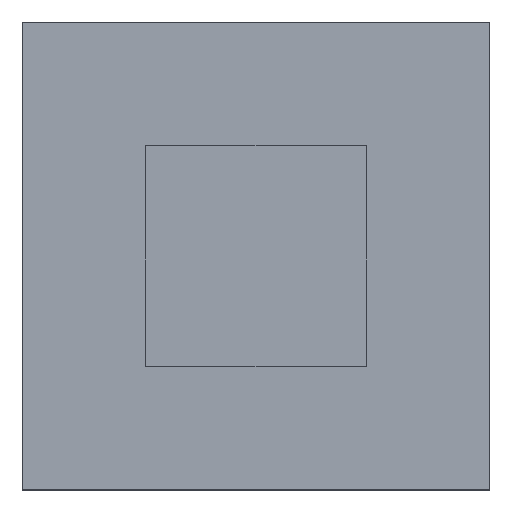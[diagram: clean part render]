
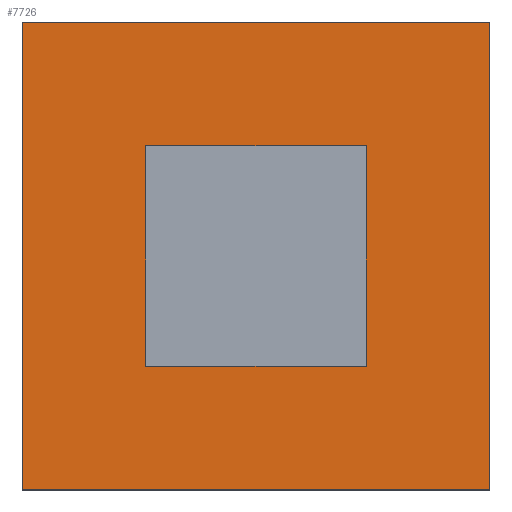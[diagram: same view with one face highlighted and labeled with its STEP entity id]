
A CAD part, top view. The second image highlights one B-rep face of the part: STEP entity #7726.
In plain terms, the highlighted planar face has unit normal (0, 0, 1).
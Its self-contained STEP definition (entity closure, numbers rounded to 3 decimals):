
#503 = VERTEX_POINT ( 'NONE', #2629 ) ;
#594 = CARTESIAN_POINT ( 'NONE',  ( 16.5, 16.5, 1.5 ) ) ;
#877 = CARTESIAN_POINT ( 'NONE',  ( -35., 35., 1.5 ) ) ;
#1451 = FACE_OUTER_BOUND ( 'NONE', #2004, .T. ) ;
#1660 = VECTOR ( 'NONE', #10541, 1000. ) ;
#1793 = CARTESIAN_POINT ( 'NONE',  ( 35., 35., 1.5 ) ) ;
#1853 = ORIENTED_EDGE ( 'NONE', *, *, #8803, .T. ) ;
#1870 = CARTESIAN_POINT ( 'NONE',  ( -16.5, -16.5, 1.5 ) ) ;
#2004 = EDGE_LOOP ( 'NONE', ( #6727, #1853, #2871, #6154 ) ) ;
#2267 = VECTOR ( 'NONE', #5680, 1000. ) ;
#2496 = EDGE_CURVE ( 'NONE', #5563, #10573, #5337, .T. ) ;
#2629 = CARTESIAN_POINT ( 'NONE',  ( 35., 35., 1.5 ) ) ;
#2649 = EDGE_CURVE ( 'NONE', #10573, #9497, #3762, .T. ) ;
#2871 = ORIENTED_EDGE ( 'NONE', *, *, #7599, .T. ) ;
#2905 = VECTOR ( 'NONE', #10773, 1000. ) ;
#2908 = CARTESIAN_POINT ( 'NONE',  ( -35., 35., 1.5 ) ) ;
#3012 = ORIENTED_EDGE ( 'NONE', *, *, #9939, .F. ) ;
#3025 = CARTESIAN_POINT ( 'NONE',  ( 0., 0., 1.5 ) ) ;
#3071 = EDGE_CURVE ( 'NONE', #6294, #9923, #6422, .T. ) ;
#3208 = CARTESIAN_POINT ( 'NONE',  ( 16.5, 16.5, 1.5 ) ) ;
#3298 = VERTEX_POINT ( 'NONE', #4496 ) ;
#3324 = VERTEX_POINT ( 'NONE', #1870 ) ;
#3502 = AXIS2_PLACEMENT_3D ( 'NONE', #3025, #9913, #10751 ) ;
#3762 = LINE ( 'NONE', #7347, #2905 ) ;
#4042 = CARTESIAN_POINT ( 'NONE',  ( -16.5, -16.5, 1.5 ) ) ;
#4153 = CARTESIAN_POINT ( 'NONE',  ( 16.5, -16.5, 1.5 ) ) ;
#4349 = LINE ( 'NONE', #10189, #10850 ) ;
#4496 = CARTESIAN_POINT ( 'NONE',  ( -16.5, 16.5, 1.5 ) ) ;
#4742 = CARTESIAN_POINT ( 'NONE',  ( 35., -35., 1.5 ) ) ;
#4944 = LINE ( 'NONE', #4042, #9079 ) ;
#5089 = ORIENTED_EDGE ( 'NONE', *, *, #9181, .F. ) ;
#5337 = LINE ( 'NONE', #6176, #1660 ) ;
#5374 = DIRECTION ( 'NONE',  ( -1., 0., 0. ) ) ;
#5563 = VERTEX_POINT ( 'NONE', #877 ) ;
#5680 = DIRECTION ( 'NONE',  ( 0., -1., 0. ) ) ;
#5938 = DIRECTION ( 'NONE',  ( -1., 0., 0. ) ) ;
#6154 = ORIENTED_EDGE ( 'NONE', *, *, #2496, .T. ) ;
#6173 = VECTOR ( 'NONE', #5374, 1000. ) ;
#6176 = CARTESIAN_POINT ( 'NONE',  ( -35., 35., 1.5 ) ) ;
#6294 = VERTEX_POINT ( 'NONE', #4153 ) ;
#6422 = LINE ( 'NONE', #594, #6494 ) ;
#6494 = VECTOR ( 'NONE', #10844, 1000. ) ;
#6727 = ORIENTED_EDGE ( 'NONE', *, *, #2649, .T. ) ;
#6734 = DIRECTION ( 'NONE',  ( 1., 0., 0. ) ) ;
#6898 = VECTOR ( 'NONE', #9314, 1000. ) ;
#7187 = ORIENTED_EDGE ( 'NONE', *, *, #8627, .F. ) ;
#7347 = CARTESIAN_POINT ( 'NONE',  ( -35., -35., 1.5 ) ) ;
#7402 = LINE ( 'NONE', #9201, #2267 ) ;
#7599 = EDGE_CURVE ( 'NONE', #503, #5563, #9528, .T. ) ;
#7726 = ADVANCED_FACE ( 'NONE', ( #9124, #1451 ), #10640, .F. ) ;
#8627 = EDGE_CURVE ( 'NONE', #3298, #3324, #7402, .T. ) ;
#8803 = EDGE_CURVE ( 'NONE', #9497, #503, #9531, .T. ) ;
#9079 = VECTOR ( 'NONE', #6734, 1000. ) ;
#9124 = FACE_BOUND ( 'NONE', #9474, .T. ) ;
#9181 = EDGE_CURVE ( 'NONE', #9923, #3298, #4349, .T. ) ;
#9201 = CARTESIAN_POINT ( 'NONE',  ( -16.5, 16.5, 1.5 ) ) ;
#9314 = DIRECTION ( 'NONE',  ( 0., 1., 0. ) ) ;
#9474 = EDGE_LOOP ( 'NONE', ( #10899, #3012, #7187, #5089 ) ) ;
#9497 = VERTEX_POINT ( 'NONE', #4742 ) ;
#9528 = LINE ( 'NONE', #2908, #6173 ) ;
#9531 = LINE ( 'NONE', #1793, #6898 ) ;
#9913 = DIRECTION ( 'NONE',  ( 0., 0., -1. ) ) ;
#9923 = VERTEX_POINT ( 'NONE', #3208 ) ;
#9939 = EDGE_CURVE ( 'NONE', #3324, #6294, #4944, .T. ) ;
#10189 = CARTESIAN_POINT ( 'NONE',  ( -16.5, 16.5, 1.5 ) ) ;
#10541 = DIRECTION ( 'NONE',  ( 0., -1., 0. ) ) ;
#10573 = VERTEX_POINT ( 'NONE', #10978 ) ;
#10640 = PLANE ( 'NONE',  #3502 ) ;
#10751 = DIRECTION ( 'NONE',  ( -1., 0., 0. ) ) ;
#10773 = DIRECTION ( 'NONE',  ( 1., 0., 0. ) ) ;
#10844 = DIRECTION ( 'NONE',  ( 0., 1., 0. ) ) ;
#10850 = VECTOR ( 'NONE', #5938, 1000. ) ;
#10899 = ORIENTED_EDGE ( 'NONE', *, *, #3071, .F. ) ;
#10978 = CARTESIAN_POINT ( 'NONE',  ( -35., -35., 1.5 ) ) ;
